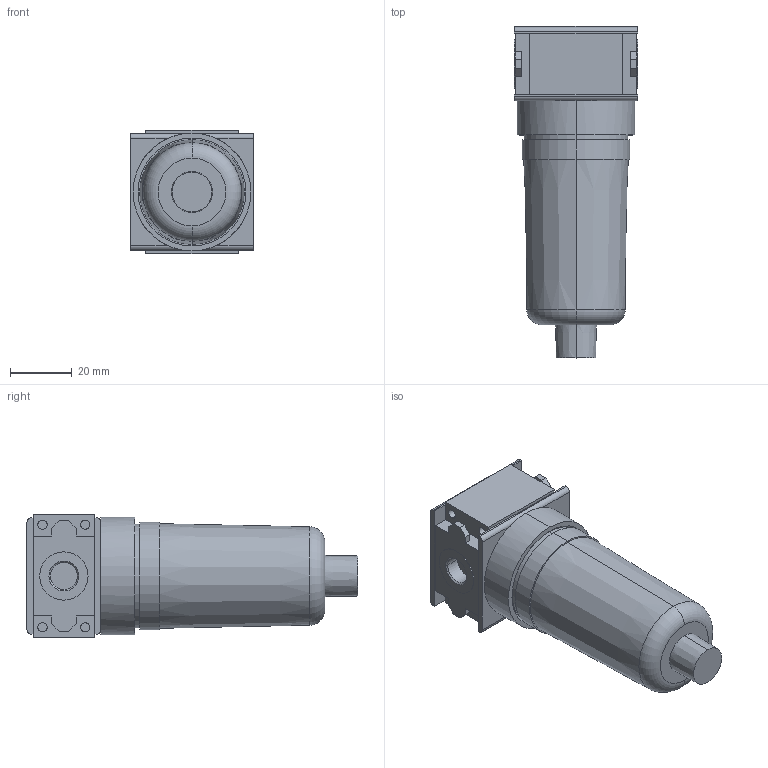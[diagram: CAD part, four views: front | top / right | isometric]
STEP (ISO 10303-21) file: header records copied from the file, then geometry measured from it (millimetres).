
FILE_DESCRIPTION((''),'2;1');
FILE_NAME('0821303720_ASM','2016-02-02T',('PUG1HC'),(''),'PRO/ENGINEER BY PARAMETRIC TECHNOLOGY CORPORATION, 2012421','PRO/ENGINEER BY PARAMETRIC TECHNOLOGY CORPORATION, 2012421','');
FILE_SCHEMA(('CONFIG_CONTROL_DESIGN','SHAPE_APPEARANCE_LAYERS_GROUPS'));
Length unit declared in the file: millimetre
Products named in the file (3): 0821303720-A; 1827009637; 0821303720_ASM
Assembly tree (2 placements, depth 2):
  0821303720_ASM
    0821303720-A
    1827009637
Bounding box: 40 x 107.9 x 40 mm (x, y, z)
Volume: 102140.7 mm3; surface area: 20665.6 mm2
Topology: 2 solids, 2 shells, 136 faces, 316 edges, 200 vertices
Faces by surface type: plane 78, cylinder 42, cone 14, torus 2
Entity records: 3950 total; most frequent: DIRECTION 704, CARTESIAN_POINT 657, ORIENTED_EDGE 632, EDGE_CURVE 316, AXIS2_PLACEMENT_3D 247, VECTOR 210, LINE 210, VERTEX_POINT 200
